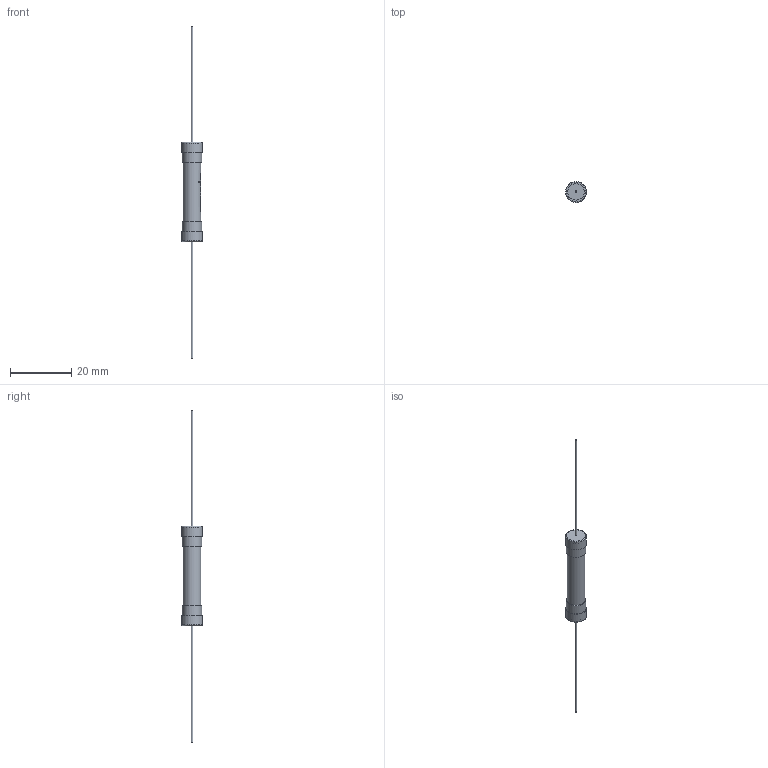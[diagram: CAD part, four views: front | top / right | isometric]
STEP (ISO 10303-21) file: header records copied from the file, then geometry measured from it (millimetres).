
FILE_DESCRIPTION(/* description */ (''),/* implementation_level */ '2;1');
FILE_NAME(/* name */ 'C:\Users\Hani\Desktop\work\FCA\FCA-P.stp',/* time_stamp */ '2022-01-30T10:50:09-08:00',/* author */ ('Hani'),/* organization */ (''),/* preprocessor_version */ 'ST-DEVELOPER v17',/* originating_system */ 'Autodesk Inventor 2019',/* authorisation */ '');
FILE_SCHEMA (('AUTOMOTIVE_DESIGN { 1 0 10303 214 3 1 1 }'));
Length unit declared in the file: inch
Products named in the file (3): FCA-P; FCA; terminal_wire_6.85mm-40L
Assembly tree (3 placements, depth 2):
  FCA-P
    FCA
    terminal_wire_6.85mm-40L  x2
Bounding box: 6.85 x 6.85 x 108.71 mm (x, y, z)
Volume: 891.5 mm3; surface area: 1305.7 mm2
Topology: 3 solids, 4 shells, 166 faces, 443 edges, 295 vertices
Faces by surface type: plane 71, bspline 67, cylinder 23, torus 5
Full cylindrical faces by diameter (mm): 0.6 x2, 5.588 x1, 5.677 x1, 6.35 x4, 6.85 x2
Entity records: 6560 total; most frequent: CARTESIAN_POINT 2808, ORIENTED_EDGE 860, DIRECTION 580, EDGE_CURVE 430, VERTEX_POINT 286, AXIS2_PLACEMENT_3D 194, LINE 192, VECTOR 192
